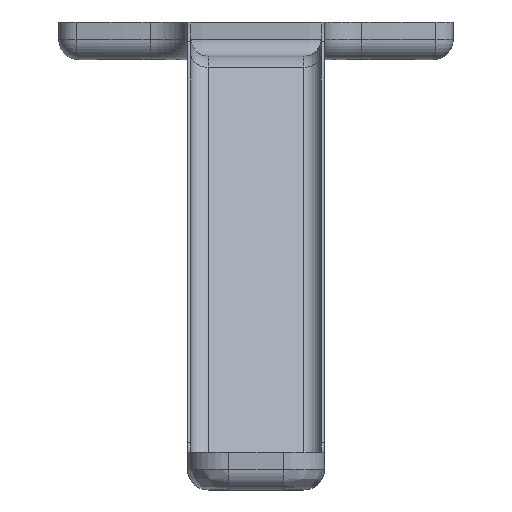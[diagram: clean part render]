
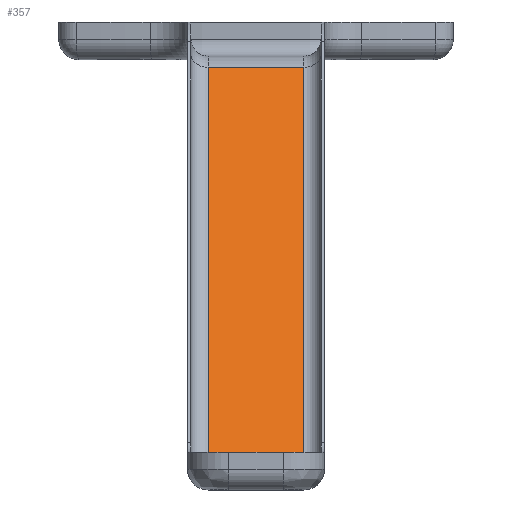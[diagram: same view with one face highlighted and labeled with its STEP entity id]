
A CAD part, top view. The second image highlights one B-rep face of the part: STEP entity #357.
In plain terms, the highlighted planar face has unit normal (0, 0.707, 0.707).
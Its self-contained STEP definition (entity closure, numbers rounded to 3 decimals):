
#357=ADVANCED_FACE('',(#475),#439,.F.);
#439=PLANE('',#1761);
#475=FACE_OUTER_BOUND('',#573,.T.);
#573=EDGE_LOOP('',(#843,#844,#845,#846));
#843=ORIENTED_EDGE('',*,*,#1389,.F.);
#844=ORIENTED_EDGE('',*,*,#1390,.T.);
#845=ORIENTED_EDGE('',*,*,#1391,.F.);
#846=ORIENTED_EDGE('',*,*,#1392,.T.);
#1221=VERTEX_POINT('',#2740);
#1222=VERTEX_POINT('',#2741);
#1223=VERTEX_POINT('',#2743);
#1224=VERTEX_POINT('',#2745);
#1389=EDGE_CURVE('',#1221,#1222,#1549,.T.);
#1390=EDGE_CURVE('',#1221,#1223,#1550,.T.);
#1391=EDGE_CURVE('',#1224,#1223,#1551,.T.);
#1392=EDGE_CURVE('',#1224,#1222,#1552,.T.);
#1549=LINE('',#2739,#1639);
#1550=LINE('',#2742,#1640);
#1551=LINE('',#2744,#1641);
#1552=LINE('',#2746,#1642);
#1639=VECTOR('',#2153,1.);
#1640=VECTOR('',#2154,1.);
#1641=VECTOR('',#2155,1.);
#1642=VECTOR('',#2156,1.);
#1761=AXIS2_PLACEMENT_3D('',#2747,#2157,#2158);
#2153=DIRECTION('',(-1.,0.,0.));
#2154=DIRECTION('',(0.,0.707,-0.707));
#2155=DIRECTION('',(1.,0.,0.));
#2156=DIRECTION('',(0.,-0.707,0.707));
#2157=DIRECTION('',(0.,-0.707,-0.707));
#2158=DIRECTION('',(-0.167,0.697,-0.697));
#2739=CARTESIAN_POINT('',(22.639,-228.718,239.414));
#2740=CARTESIAN_POINT('',(39.639,-228.718,239.414));
#2741=CARTESIAN_POINT('',(25.639,-228.718,239.414));
#2742=CARTESIAN_POINT('',(39.639,-228.718,239.414));
#2743=CARTESIAN_POINT('',(39.639,-170.111,180.808));
#2744=CARTESIAN_POINT('',(22.639,-170.111,180.808));
#2745=CARTESIAN_POINT('',(25.639,-170.111,180.808));
#2746=CARTESIAN_POINT('',(25.639,-168.646,179.343));
#2747=CARTESIAN_POINT('',(22.639,-168.646,179.343));
